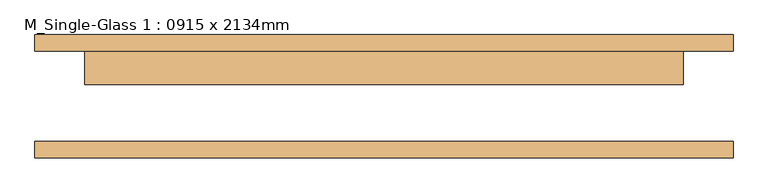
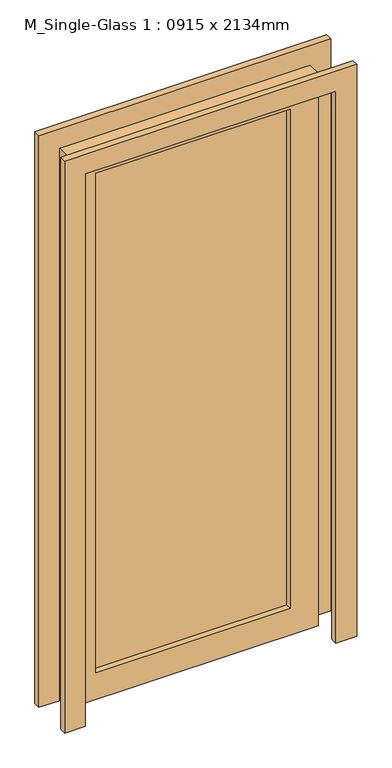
"""IFC4 building model written with IfcOpenShell, lengths in millimetres: door geometry, M_Single-Glass 1 : 0915 x 2134mm."""

from ifc_helpers import new_model, si_unit, frame, origin, place, context, project, spatial, polyline, outline, extrude, source, transform, mapped, element, save


def m_single_glass_1_0915_x_2134mm_fb3287b7(model_context):
    return source(origin(), model_context, "Body", "SweptSolid", [
        extrude(outline(polyline([(2134.0, 457.5), (0.0, 457.5), (0.0, 533.5), (2210.0, 533.5), (2210.0, -533.5), (0.0, -533.5), (0.0, -457.5), (2134.0, -457.5), (2134.0, 457.5)])), frame((0.0, -94.25, 0.0), z_axis=(0.0, 1.0, 0.0), x_axis=(0.0, 0.0, 1.0)), (0.0, 0.0, 1.0), 25.0),
        extrude(outline(polyline([(2134.0, 457.5), (0.0, 457.5), (0.0, 533.5), (2210.0, 533.5), (2210.0, -533.5), (0.0, -533.5), (0.0, -457.5), (2134.0, -457.5), (2134.0, 457.5)])), frame((0.0, 69.25, 0.0), z_axis=(0.0, 1.0, 0.0), x_axis=(0.0, 0.0, 1.0)), (0.0, 0.0, 1.0), 25.0),
        extrude(outline(polyline([(355.5, 40.675), (-355.5, 40.675), (-355.5, 47.025), (355.5, 47.025), (355.5, 40.675)])), frame((0.0, 0.0, 102.0), z_axis=(0.0, 0.0, 1.0), x_axis=(1.0, 0.0, 0.0)), (0.0, 0.0, 1.0), 1930.0),
        extrude(outline(polyline([(2134.0, 457.5), (2134.0, -457.5), (0.0, -457.5), (0.0, 457.5), (2134.0, 457.5)]), holes=[polyline([(2032.0, -355.5), (2032.0, 355.5), (102.0, 355.5), (102.0, -355.5), (2032.0, -355.5)])]), frame((0.0, 18.25, 0.0), z_axis=(0.0, 1.0, 0.0), x_axis=(0.0, 0.0, 1.0)), (0.0, 0.0, 1.0), 51.0),
    ])


if __name__ == "__main__":
    model = new_model("IFC4")
    model_context = context("Model", 3, world=origin())
    ifc_project = project(units=[si_unit("LENGTHUNIT", "METRE", prefix="MILLI")], contexts=[model_context])
    site = spatial("IfcSite", under=ifc_project)
    building = spatial("IfcBuilding", under=site)
    placement = place(None, origin())
    m_single_glass_1_0915_x_2134mm_shape = m_single_glass_1_0915_x_2134mm_fb3287b7(model_context)
    element("IfcDoor", 1, ObjectType="M_Single-Glass 1 : 0915 x 2134mm", at=placement, inside=building, context=model_context, shape_type="MappedRepresentation", body=[
        mapped(m_single_glass_1_0915_x_2134mm_shape, transform((0.0, 0.0, 0.0), x_axis=(1.0, 0.0, 0.0), y_axis=(0.0, 1.0, 0.0), z_axis=(0.0, 0.0, 1.0))),
    ])
    save(model, "model.ifc")
